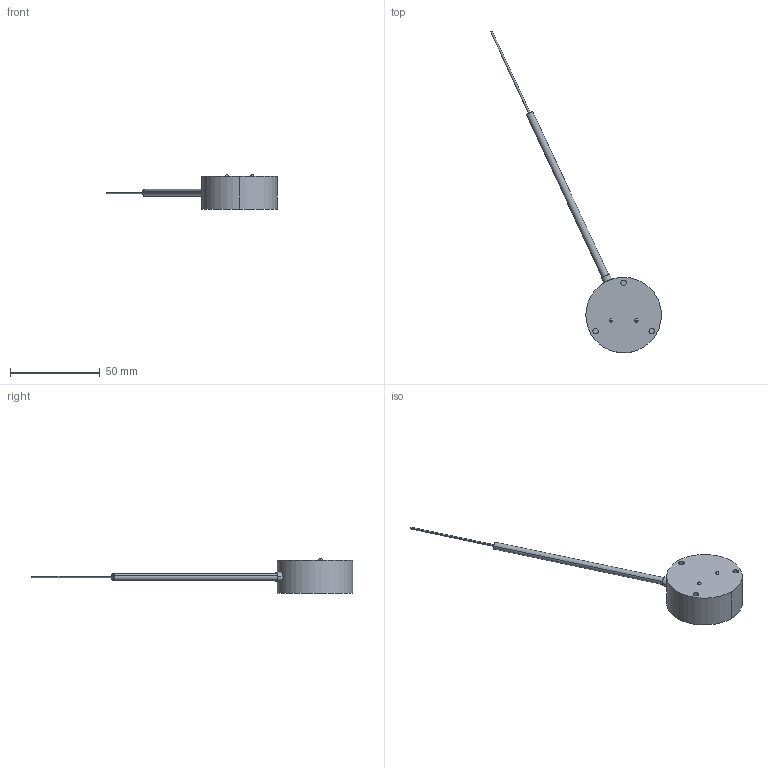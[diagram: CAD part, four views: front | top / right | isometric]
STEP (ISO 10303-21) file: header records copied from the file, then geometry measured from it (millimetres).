
FILE_DESCRIPTION (( 'STEP AP203' ), '1' );
FILE_NAME ('SU10.STEP', '2016-06-21T01:35:47', ( '' ), ( '' ), 'SwSTEP 2.0', 'SolidWorks 2014', '' );
FILE_SCHEMA (( 'CONFIG_CONTROL_DESIGN' ));
Length unit declared in the file: metre
Products named in the file (3): PRNA10S-#-#-#-FR-line (7)_1; SU10; PRNA10S-#-#-#-FR-line (3)
Assembly tree (2 placements, depth 2):
  SU10
    PRNA10S-#-#-#-FR-line (3)
    PRNA10S-#-#-#-FR-line (7)_1
Bounding box: 94.99 x 178.91 x 19.3 mm (x, y, z)
Volume: 26587.7 mm3; surface area: 6731.1 mm2
Topology: 2 solids, 2 shells, 27 faces, 54 edges, 34 vertices
Faces by surface type: cylinder 14, plane 9, bspline 4
Entity records: 1105 total; most frequent: CARTESIAN_POINT 242, DIRECTION 138, ORIENTED_EDGE 100, AXIS2_PLACEMENT_3D 62, EDGE_CURVE 50, VERTEX_POINT 34, EDGE_LOOP 34, CIRCLE 34
